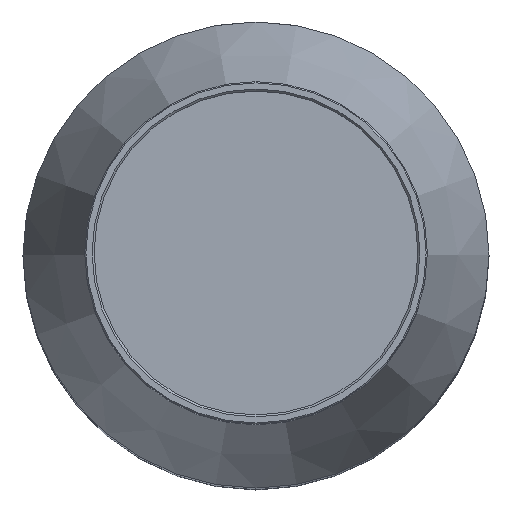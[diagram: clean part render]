
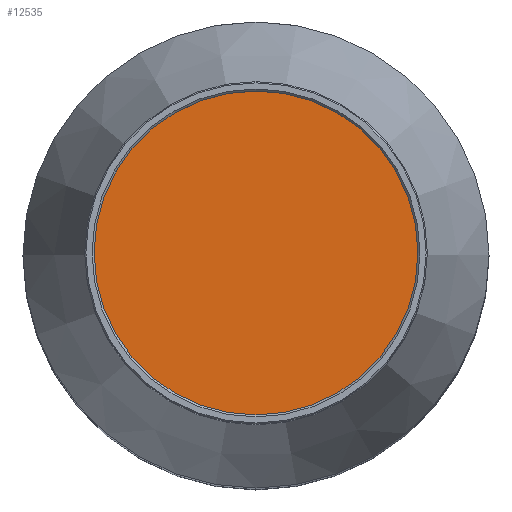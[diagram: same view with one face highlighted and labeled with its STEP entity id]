
A CAD part, top view. The second image highlights one B-rep face of the part: STEP entity #12535.
In plain terms, the highlighted planar face has unit normal (0, 0, 1).
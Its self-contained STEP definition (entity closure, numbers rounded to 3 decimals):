
#266 = VERTEX_POINT ( 'NONE', #11985 ) ;
#280 = AXIS2_PLACEMENT_3D ( 'NONE', #9350, #658, #8091 ) ;
#658 = DIRECTION ( 'NONE',  ( 0., 0., -1. ) ) ;
#3291 = ORIENTED_EDGE ( 'NONE', *, *, #15550, .F. ) ;
#3381 = DIRECTION ( 'NONE',  ( 1., 0., 0. ) ) ;
#4015 = DIRECTION ( 'NONE',  ( 0., 0., 1. ) ) ;
#4670 = AXIS2_PLACEMENT_3D ( 'NONE', #15939, #4015, #3381 ) ;
#7843 = FACE_OUTER_BOUND ( 'NONE', #8952, .T. ) ;
#8091 = DIRECTION ( 'NONE',  ( 1., 0., 0. ) ) ;
#8952 = EDGE_LOOP ( 'NONE', ( #3291 ) ) ;
#9350 = CARTESIAN_POINT ( 'NONE',  ( 0., 0., 149.86 ) ) ;
#10815 = PLANE ( 'NONE',  #4670 ) ;
#11985 = CARTESIAN_POINT ( 'NONE',  ( 40.65, 0., 149.86 ) ) ;
#12535 = ADVANCED_FACE ( 'NONE', ( #7843 ), #10815, .T. ) ;
#15550 = EDGE_CURVE ( 'NONE', #266, #266, #15640, .T. ) ;
#15640 = CIRCLE ( 'NONE', #280, 40.65 ) ;
#15939 = CARTESIAN_POINT ( 'NONE',  ( 0., 0., 149.86 ) ) ;
